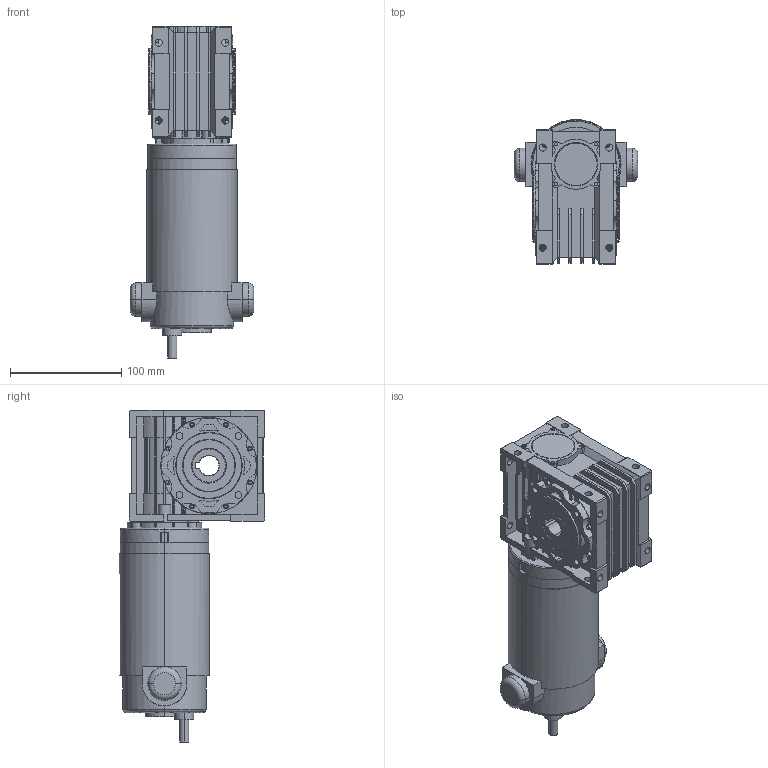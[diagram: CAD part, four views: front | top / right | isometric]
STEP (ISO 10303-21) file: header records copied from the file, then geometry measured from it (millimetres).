
FILE_DESCRIPTION (( 'STEP AP203' ), '1' );
FILE_NAME ('CMRV040-56_DC100_IP40.STEP', '2024-10-15T12:26:25', ( '' ), ( '' ), 'SwSTEP 2.0', 'SolidWorks 2021', '' );
FILE_SCHEMA (( 'CONFIG_CONTROL_DESIGN' ));
Length unit declared in the file: millimetre
Products named in the file (8): EC_100_120_56_B14.3d.stp; 3.STEP; 0201110405602.STEP; 5.STEP; hex lobular socket head cap screws-8.8 gb_GB_HEXAGON_TYPE22 M6X16-N.STEP; CMRV040-56_DC100_IP40; 1.STEP; CMRV040-56B14.STEP
Assembly tree (12 placements, depth 3):
  CMRV040-56_DC100_IP40
    CMRV040-56B14.STEP
      3.STEP
      5.STEP
      1.STEP
      0201110405602.STEP
      hex lobular socket head cap screws-8.8 gb_GB_HEXAGON_TYPE22 M6X16-N.STEP  x6
    EC_100_120_56_B14.3d.stp
Bounding box: 111 x 130.5 x 298.7 mm (x, y, z)
Volume: 1524967.1 mm3; surface area: 223201.9 mm2
Topology: 12 solids, 12 shells, 1287 faces, 3337 edges, 2175 vertices
Faces by surface type: plane 624, cylinder 549, cone 56, bspline 40, torus 18
Entity records: 40841 total; most frequent: CARTESIAN_POINT 10013, DIRECTION 6338, ORIENTED_EDGE 6234, EDGE_CURVE 3117, AXIS2_PLACEMENT_3D 2282, VERTEX_POINT 2050, LINE 1774, VECTOR 1774
